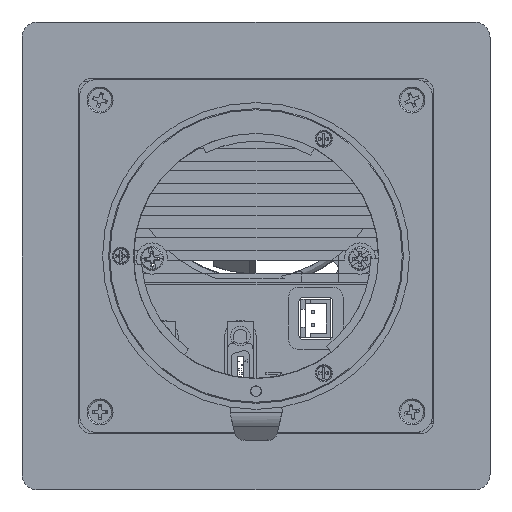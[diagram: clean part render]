
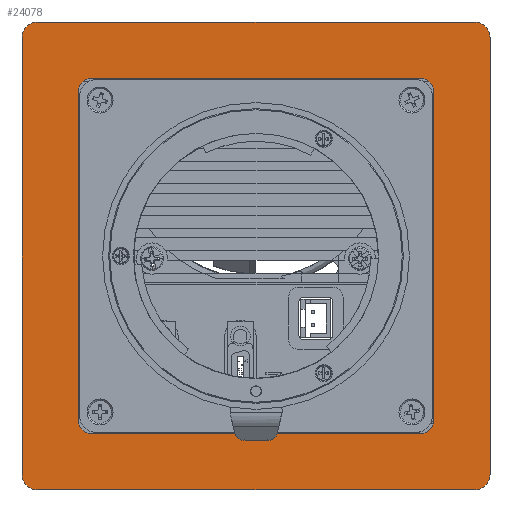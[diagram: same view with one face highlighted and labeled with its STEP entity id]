
A CAD part, front view. The second image highlights one B-rep face of the part: STEP entity #24078.
In plain terms, the highlighted planar face has unit normal (0, -1, 0).
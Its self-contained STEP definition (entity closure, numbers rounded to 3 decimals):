
#254 = CIRCLE ( 'NONE', #31220, 3. ) ;
#285 = VERTEX_POINT ( 'NONE', #19952 ) ;
#324 = CARTESIAN_POINT ( 'NONE',  ( 52.708, -4., 42. ) ) ;
#556 = VERTEX_POINT ( 'NONE', #8390 ) ;
#1022 = VERTEX_POINT ( 'NONE', #32222 ) ;
#2457 = EDGE_CURVE ( 'NONE', #21255, #42946, #38135, .T. ) ;
#2610 = LINE ( 'NONE', #39020, #38413 ) ;
#3378 = DIRECTION ( 'NONE',  ( 1., 0., 0. ) ) ;
#3699 = DIRECTION ( 'NONE',  ( 0., 0., -1. ) ) ;
#3730 = EDGE_CURVE ( 'NONE', #285, #38462, #18086, .T. ) ;
#5014 = VECTOR ( 'NONE', #12176, 1000. ) ;
#5776 = DIRECTION ( 'NONE',  ( -1., 0., 0. ) ) ;
#6999 = EDGE_CURVE ( 'NONE', #285, #42946, #15665, .T. ) ;
#6998 = DIRECTION ( 'NONE',  ( 0., 0., -1. ) ) ;
#7018 = CARTESIAN_POINT ( 'NONE',  ( 52.708, -4., -42. ) ) ;
#7916 = EDGE_CURVE ( 'NONE', #13780, #33962, #33271, .T. ) ;
#8390 = CARTESIAN_POINT ( 'NONE',  ( 55.708, -4., -42. ) ) ;
#8621 = ORIENTED_EDGE ( 'NONE', *, *, #10037, .F. ) ;
#8726 = LINE ( 'NONE', #9179, #18196 ) ;
#8800 = CARTESIAN_POINT ( 'NONE',  ( 42.358, -4., -34.15 ) ) ;
#9179 = CARTESIAN_POINT ( 'NONE',  ( 55.708, -4., 45. ) ) ;
#9371 = VERTEX_POINT ( 'NONE', #21606 ) ;
#9499 = CARTESIAN_POINT ( 'NONE',  ( -34.292, -4., 45. ) ) ;
#9704 = CARTESIAN_POINT ( 'NONE',  ( -23.442, -4., -34.15 ) ) ;
#9908 = ORIENTED_EDGE ( 'NONE', *, *, #22879, .T. ) ;
#9990 = ORIENTED_EDGE ( 'NONE', *, *, #35272, .F. ) ;
#10037 = EDGE_CURVE ( 'NONE', #27063, #16744, #2610, .T. ) ;
#10175 = DIRECTION ( 'NONE',  ( 0., 1., 0. ) ) ;
#10366 = ORIENTED_EDGE ( 'NONE', *, *, #7916, .F. ) ;
#10635 = CARTESIAN_POINT ( 'NONE',  ( -34.292, -4., 45. ) ) ;
#10722 = ORIENTED_EDGE ( 'NONE', *, *, #33692, .F. ) ;
#10881 = VECTOR ( 'NONE', #3378, 1000. ) ;
#11206 = AXIS2_PLACEMENT_3D ( 'NONE', #26698, #36436, #33064 ) ;
#12176 = DIRECTION ( 'NONE',  ( -1., 0., 0. ) ) ;
#13279 = AXIS2_PLACEMENT_3D ( 'NONE', #39185, #22007, #38747 ) ;
#13648 = CARTESIAN_POINT ( 'NONE',  ( -31.292, -4., 42. ) ) ;
#13780 = VERTEX_POINT ( 'NONE', #35300 ) ;
#14493 = EDGE_CURVE ( 'NONE', #26137, #25885, #17019, .T. ) ;
#14892 = AXIS2_PLACEMENT_3D ( 'NONE', #7018, #37201, #23942 ) ;
#15209 = CIRCLE ( 'NONE', #13279, 2.5 ) ;
#15367 = VECTOR ( 'NONE', #26442, 1000. ) ;
#15444 = ORIENTED_EDGE ( 'NONE', *, *, #27933, .T. ) ;
#15587 = ORIENTED_EDGE ( 'NONE', *, *, #6999, .T. ) ;
#15665 = CIRCLE ( 'NONE', #25104, 2.5 ) ;
#16047 = ORIENTED_EDGE ( 'NONE', *, *, #40775, .T. ) ;
#16584 = CARTESIAN_POINT ( 'NONE',  ( -20.942, -4., -34.15 ) ) ;
#16744 = VERTEX_POINT ( 'NONE', #31944 ) ;
#17013 = CARTESIAN_POINT ( 'NONE',  ( -20.942, -4., 31.65 ) ) ;
#17019 = CIRCLE ( 'NONE', #42784, 2.5 ) ;
#17437 = DIRECTION ( 'NONE',  ( 0., 0., -1. ) ) ;
#17803 = CARTESIAN_POINT ( 'NONE',  ( -20.942, -4., 34.15 ) ) ;
#17959 = PLANE ( 'NONE',  #41629 ) ;
#18086 = LINE ( 'NONE', #9704, #40688 ) ;
#18196 = VECTOR ( 'NONE', #29366, 1000. ) ;
#18377 = CARTESIAN_POINT ( 'NONE',  ( 55.708, -4., 42. ) ) ;
#19166 = FACE_BOUND ( 'NONE', #39982, .T. ) ;
#19322 = EDGE_CURVE ( 'NONE', #39411, #25885, #30921, .T. ) ;
#19952 = CARTESIAN_POINT ( 'NONE',  ( -23.442, -4., 31.65 ) ) ;
#20387 = DIRECTION ( 'NONE',  ( 0., 0., -1. ) ) ;
#20428 = DIRECTION ( 'NONE',  ( 0., -1., 0. ) ) ;
#20743 = CIRCLE ( 'NONE', #14892, 3. ) ;
#20758 = CARTESIAN_POINT ( 'NONE',  ( 10.708, -4., 0. ) ) ;
#21255 = VERTEX_POINT ( 'NONE', #34440 ) ;
#21320 = DIRECTION ( 'NONE',  ( 0., -1., 0. ) ) ;
#21398 = ORIENTED_EDGE ( 'NONE', *, *, #2457, .F. ) ;
#21606 = CARTESIAN_POINT ( 'NONE',  ( -34.292, -4., -42. ) ) ;
#21852 = DIRECTION ( 'NONE',  ( 0., 0., 1. ) ) ;
#22007 = DIRECTION ( 'NONE',  ( 0., 1., 0. ) ) ;
#22625 = CARTESIAN_POINT ( 'NONE',  ( 44.858, -4., 34.15 ) ) ;
#22879 = EDGE_CURVE ( 'NONE', #13780, #40546, #254, .T. ) ;
#23506 = EDGE_CURVE ( 'NONE', #40128, #33962, #28631, .T. ) ;
#23684 = ORIENTED_EDGE ( 'NONE', *, *, #23506, .T. ) ;
#23942 = DIRECTION ( 'NONE',  ( 0., 0., -1. ) ) ;
#24078 = ADVANCED_FACE ( 'NONE', ( #19166, #25452 ), #17959, .T. ) ;
#24110 = DIRECTION ( 'NONE',  ( 0., 0., -1. ) ) ;
#24532 = CARTESIAN_POINT ( 'NONE',  ( -34.292, -4., 42. ) ) ;
#24653 = EDGE_CURVE ( 'NONE', #27063, #556, #20743, .T. ) ;
#24983 = EDGE_CURVE ( 'NONE', #9371, #16744, #28567, .T. ) ;
#25104 = AXIS2_PLACEMENT_3D ( 'NONE', #17013, #40520, #20387 ) ;
#25452 = FACE_OUTER_BOUND ( 'NONE', #38816, .T. ) ;
#25885 = VERTEX_POINT ( 'NONE', #8800 ) ;
#26137 = VERTEX_POINT ( 'NONE', #43551 ) ;
#26413 = AXIS2_PLACEMENT_3D ( 'NONE', #324, #34474, #17437 ) ;
#26442 = DIRECTION ( 'NONE',  ( 1., 0., 0. ) ) ;
#26698 = CARTESIAN_POINT ( 'NONE',  ( -31.292, -4., -42. ) ) ;
#26807 = CARTESIAN_POINT ( 'NONE',  ( 42.358, -4., -31.65 ) ) ;
#26922 = CARTESIAN_POINT ( 'NONE',  ( 44.858, -4., -34.15 ) ) ;
#27063 = VERTEX_POINT ( 'NONE', #32252 ) ;
#27261 = AXIS2_PLACEMENT_3D ( 'NONE', #36475, #33398, #30008 ) ;
#27933 = EDGE_CURVE ( 'NONE', #21255, #1022, #15209, .T. ) ;
#28567 = CIRCLE ( 'NONE', #11206, 3. ) ;
#28631 = CIRCLE ( 'NONE', #26413, 3. ) ;
#28934 = CIRCLE ( 'NONE', #27261, 2.5 ) ;
#28973 = ORIENTED_EDGE ( 'NONE', *, *, #3730, .F. ) ;
#29132 = VECTOR ( 'NONE', #40943, 1000. ) ;
#29366 = DIRECTION ( 'NONE',  ( 0., 0., -1. ) ) ;
#30008 = DIRECTION ( 'NONE',  ( 0., 0., -1. ) ) ;
#30061 = CARTESIAN_POINT ( 'NONE',  ( -23.442, -4., -31.65 ) ) ;
#30921 = LINE ( 'NONE', #26922, #10881 ) ;
#31220 = AXIS2_PLACEMENT_3D ( 'NONE', #13648, #20428, #6998 ) ;
#31864 = CARTESIAN_POINT ( 'NONE',  ( 44.858, -4., -34.15 ) ) ;
#31944 = CARTESIAN_POINT ( 'NONE',  ( -31.292, -4., -45. ) ) ;
#32222 = CARTESIAN_POINT ( 'NONE',  ( 44.858, -4., 31.65 ) ) ;
#32252 = CARTESIAN_POINT ( 'NONE',  ( 52.708, -4., -45. ) ) ;
#33012 = LINE ( 'NONE', #31864, #37210 ) ;
#33015 = ORIENTED_EDGE ( 'NONE', *, *, #43201, .F. ) ;
#33064 = DIRECTION ( 'NONE',  ( 0., 0., -1. ) ) ;
#33271 = LINE ( 'NONE', #9499, #15367 ) ;
#33398 = DIRECTION ( 'NONE',  ( 0., 1., 0. ) ) ;
#33586 = DIRECTION ( 'NONE',  ( 0., 0., -1. ) ) ;
#33692 = EDGE_CURVE ( 'NONE', #26137, #1022, #33012, .T. ) ;
#33962 = VERTEX_POINT ( 'NONE', #40188 ) ;
#34440 = CARTESIAN_POINT ( 'NONE',  ( 42.358, -4., 34.15 ) ) ;
#34474 = DIRECTION ( 'NONE',  ( 0., -1., 0. ) ) ;
#34642 = ORIENTED_EDGE ( 'NONE', *, *, #19322, .F. ) ;
#35272 = EDGE_CURVE ( 'NONE', #9371, #40546, #41257, .T. ) ;
#35300 = CARTESIAN_POINT ( 'NONE',  ( -31.292, -4., 45. ) ) ;
#36436 = DIRECTION ( 'NONE',  ( 0., -1., 0. ) ) ;
#36475 = CARTESIAN_POINT ( 'NONE',  ( -20.942, -4., -31.65 ) ) ;
#36566 = ORIENTED_EDGE ( 'NONE', *, *, #14493, .T. ) ;
#37201 = DIRECTION ( 'NONE',  ( 0., -1., 0. ) ) ;
#37210 = VECTOR ( 'NONE', #21852, 1000. ) ;
#37444 = ORIENTED_EDGE ( 'NONE', *, *, #24983, .T. ) ;
#38135 = LINE ( 'NONE', #22625, #5014 ) ;
#38413 = VECTOR ( 'NONE', #5776, 1000. ) ;
#38462 = VERTEX_POINT ( 'NONE', #30061 ) ;
#38747 = DIRECTION ( 'NONE',  ( 0., 0., -1. ) ) ;
#38816 = EDGE_LOOP ( 'NONE', ( #8621, #42857, #33015, #23684, #10366, #9908, #9990, #37444 ) ) ;
#39020 = CARTESIAN_POINT ( 'NONE',  ( -34.292, -4., -45. ) ) ;
#39185 = CARTESIAN_POINT ( 'NONE',  ( 42.358, -4., 31.65 ) ) ;
#39411 = VERTEX_POINT ( 'NONE', #16584 ) ;
#39982 = EDGE_LOOP ( 'NONE', ( #10722, #36566, #34642, #16047, #28973, #15587, #21398, #15444 ) ) ;
#40128 = VERTEX_POINT ( 'NONE', #18377 ) ;
#40188 = CARTESIAN_POINT ( 'NONE',  ( 52.708, -4., 45. ) ) ;
#40520 = DIRECTION ( 'NONE',  ( 0., 1., 0. ) ) ;
#40546 = VERTEX_POINT ( 'NONE', #24532 ) ;
#40688 = VECTOR ( 'NONE', #33586, 1000. ) ;
#40775 = EDGE_CURVE ( 'NONE', #39411, #38462, #28934, .T. ) ;
#40943 = DIRECTION ( 'NONE',  ( 0., 0., 1. ) ) ;
#41257 = LINE ( 'NONE', #10635, #29132 ) ;
#41629 = AXIS2_PLACEMENT_3D ( 'NONE', #20758, #21320, #24110 ) ;
#42784 = AXIS2_PLACEMENT_3D ( 'NONE', #26807, #10175, #3699 ) ;
#42857 = ORIENTED_EDGE ( 'NONE', *, *, #24653, .T. ) ;
#42946 = VERTEX_POINT ( 'NONE', #17803 ) ;
#43201 = EDGE_CURVE ( 'NONE', #40128, #556, #8726, .T. ) ;
#43551 = CARTESIAN_POINT ( 'NONE',  ( 44.858, -4., -31.65 ) ) ;
